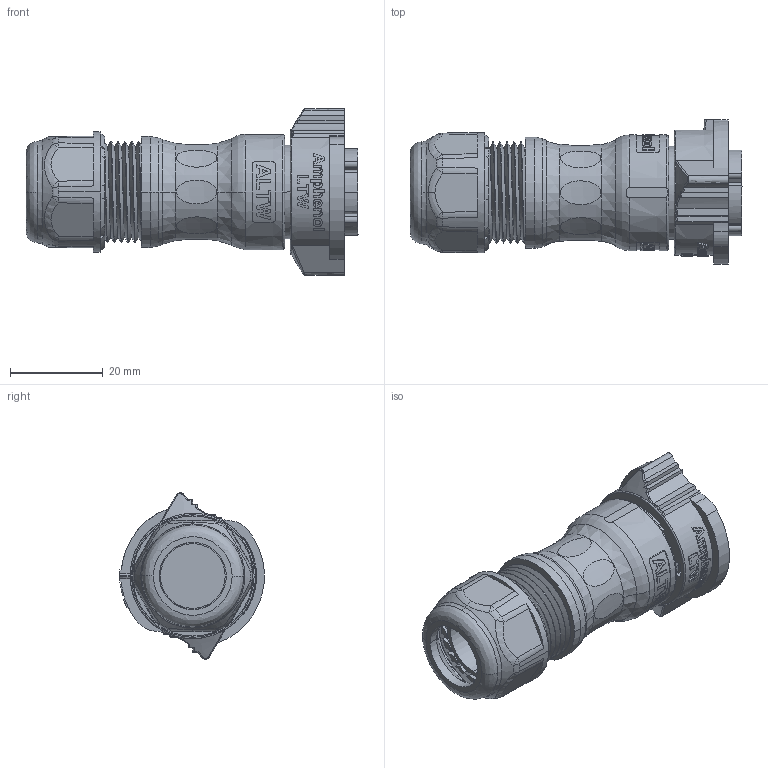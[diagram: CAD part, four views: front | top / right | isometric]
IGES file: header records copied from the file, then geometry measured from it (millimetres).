
Start section:  PTC IGES file: DC-02BFFA-QL8ANP-IGS.igs
Global section: file name: DC-02BFFA-QL8ANP-IGS.igs; native system: Creo Parametric by Parametric Technology Corporation; preprocessor: 2017170; author: L210038; organization: Unknown; date: 20211027.135413; units: millimetre
Bounding box: 71.75 x 31.26 x 36 mm (x, y, z)
Volume: 22814.6 mm3; surface area: 15378.6 mm2
Topology: 1 solids, 1 shells, 1229 faces, 3541 edges, 2342 vertices
Faces by surface type: bspline 601, revolution 384, extrusion 244
